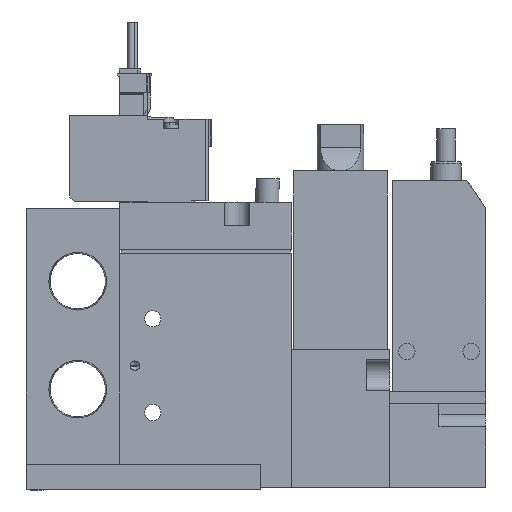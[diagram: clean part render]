
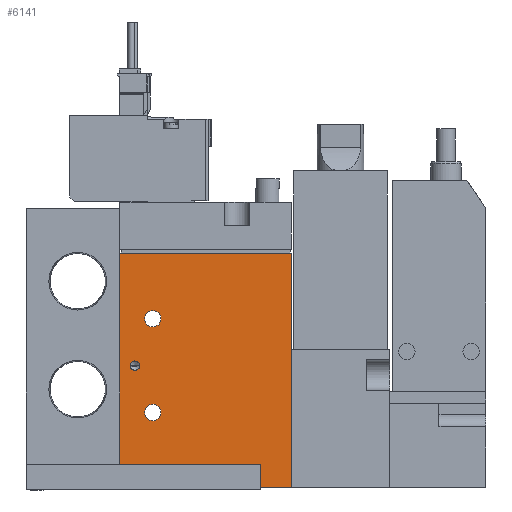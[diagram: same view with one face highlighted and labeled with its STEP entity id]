
A CAD part, left-side view. The second image highlights one B-rep face of the part: STEP entity #6141.
In plain terms, the highlighted planar face has unit normal (-1, 0, 0) as drawn and (1, 0, 0) by its records, which use the part's own axes.
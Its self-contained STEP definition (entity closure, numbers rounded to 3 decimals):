
#6141=ADVANCED_FACE('',(#9779,#9780,#9781,#9782),#9783,.F.);
#9779=FACE_BOUND('',#16931,.T.);
#9780=FACE_BOUND('',#16932,.T.);
#9781=FACE_BOUND('',#16933,.T.);
#9782=FACE_OUTER_BOUND('',#16934,.T.);
#9783=PLANE('',#16935);
#16931=EDGE_LOOP('',(#25489));
#16932=EDGE_LOOP('',(#25490));
#16933=EDGE_LOOP('',(#25491));
#16934=EDGE_LOOP('',(#25492,#25493,#25494,#25495));
#16935=AXIS2_PLACEMENT_3D('',#25496,#25497,#25498);
#25489=ORIENTED_EDGE('',*,*,#48799,.F.);
#25490=ORIENTED_EDGE('',*,*,#48801,.T.);
#25491=ORIENTED_EDGE('',*,*,#48802,.T.);
#25492=ORIENTED_EDGE('',*,*,#48792,.T.);
#25493=ORIENTED_EDGE('',*,*,#48789,.F.);
#25494=ORIENTED_EDGE('',*,*,#48793,.F.);
#25495=ORIENTED_EDGE('',*,*,#48785,.T.);
#25496=CARTESIAN_POINT('',(8.5,-19.444,50.0));
#25497=DIRECTION('',(-1.0,0.0,0.0));
#25498=DIRECTION('',(0.0,0.0,1.0));
#48785=EDGE_CURVE('',#56930,#56928,#56931,.T.);
#48789=EDGE_CURVE('',#56935,#56933,#56937,.T.);
#48792=EDGE_CURVE('',#56928,#56933,#56942,.T.);
#48793=EDGE_CURVE('',#56930,#56935,#56943,.T.);
#48799=EDGE_CURVE('',#56952,#56952,#56953,.T.);
#48801=EDGE_CURVE('',#56954,#56954,#56955,.T.);
#48802=EDGE_CURVE('',#56956,#56956,#56957,.T.);
#56928=VERTEX_POINT('',#70826);
#56930=VERTEX_POINT('',#70829);
#56931=LINE('',#70830,#70831);
#56933=VERTEX_POINT('',#70834);
#56935=VERTEX_POINT('',#70837);
#56937=LINE('',#70840,#70841);
#56942=LINE('',#70846,#70847);
#56943=LINE('',#70848,#70849);
#56952=VERTEX_POINT('',#70858);
#56953=CIRCLE('',#70859,1.0);
#56954=VERTEX_POINT('',#70860);
#56955=CIRCLE('',#70861,1.75);
#56956=VERTEX_POINT('',#70862);
#56957=CIRCLE('',#70863,1.75);
#70826=CARTESIAN_POINT('',(8.5,-19.444,0.0));
#70829=CARTESIAN_POINT('',(8.5,-19.444,50.0));
#70830=CARTESIAN_POINT('',(8.5,-19.444,50.0));
#70831=VECTOR('',#89637,1.0);
#70834=CARTESIAN_POINT('',(8.5,17.056,0.0));
#70837=CARTESIAN_POINT('',(8.5,17.056,50.0));
#70840=CARTESIAN_POINT('',(8.5,17.056,50.0));
#70841=VECTOR('',#89641,1.0);
#70846=CARTESIAN_POINT('',(8.5,-19.444,0.0));
#70847=VECTOR('',#89648,1.0);
#70848=CARTESIAN_POINT('',(8.5,-19.444,50.0));
#70849=VECTOR('',#89649,1.0);
#70858=CARTESIAN_POINT('',(8.5,-17.244,26.0));
#70859=AXIS2_PLACEMENT_3D('',#89662,#89663,#89664);
#70860=CARTESIAN_POINT('',(8.5,-10.694,36.0));
#70861=AXIS2_PLACEMENT_3D('',#89665,#89666,#89667);
#70862=CARTESIAN_POINT('',(8.5,-10.694,16.0));
#70863=AXIS2_PLACEMENT_3D('',#89668,#89669,#89670);
#89637=DIRECTION('',(0.0,0.0,-1.0));
#89641=DIRECTION('',(0.0,0.0,-1.0));
#89648=DIRECTION('',(0.0,1.0,0.0));
#89649=DIRECTION('',(0.0,1.0,0.0));
#89662=CARTESIAN_POINT('',(8.5,-16.244,26.0));
#89663=DIRECTION('',(1.0,0.,0.0));
#89664=DIRECTION('',(0.,-1.0,0.0));
#89665=CARTESIAN_POINT('',(8.5,-12.444,36.0));
#89666=DIRECTION('',(-1.0,0.0,0.0));
#89667=DIRECTION('',(0.0,1.0,0.0));
#89668=CARTESIAN_POINT('',(8.5,-12.444,16.0));
#89669=DIRECTION('',(-1.0,0.0,0.0));
#89670=DIRECTION('',(0.0,1.0,0.0));
